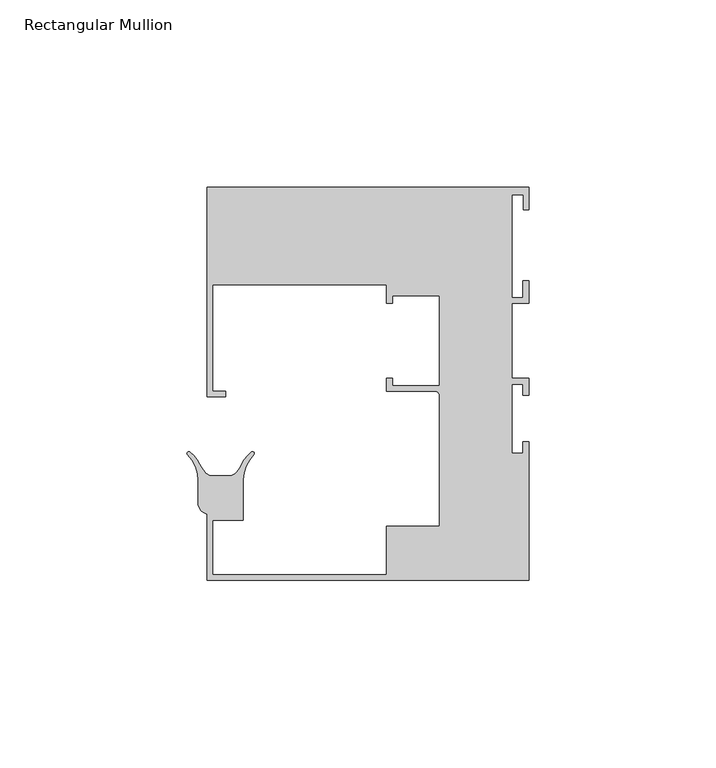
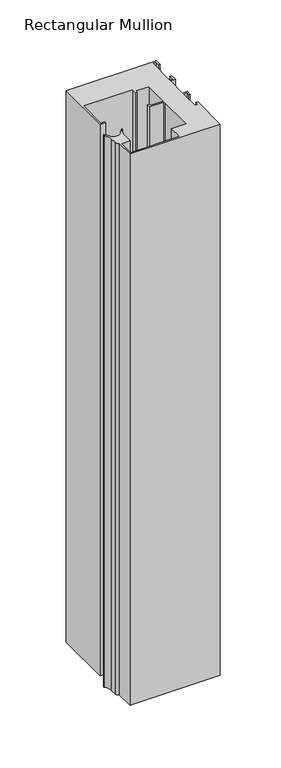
"""IFC4 building model written with IfcOpenShell, lengths in millimetres: member geometry, Rectangular Mullion : Danpal_Airpt_End-Mullion_B1."""

from ifc_helpers import new_model, si_unit, point, frame, frame_2d, origin, place, context, project, spatial, polyline, circle_curve, trimmed, segment, composite_curve, outline, extrude, source, transform, mapped, element, save


def rectangular_mullion_76561048(model_context):
    return source(origin(), model_context, "Body", "SweptSolid", [
        extrude(outline(composite_curve([segment(polyline([(-84.5, 44.249979), (-84.5, 15.7500001), (-81.0, 15.7500001), (-81.0, 14.2500001), (-86.0, 14.2500001), (-86.0, 70.2500001), (0.0, 70.2500001), (0.0, 64.2500001), (-1.5, 64.2500001), (-1.5, 68.2500001), (-4.5, 68.2500001), (-4.5, 40.7500001), (-1.5180937, 40.7500001), (-1.5180937, 45.2500001), (-0.0180937, 45.2500001), (-0.0180937, 39.2500001), (-4.5, 39.2500001), (-4.5, 19.25), (-0.0180922, 19.25), (-0.0180922, 14.65), (-1.5180922, 14.65), (-1.5180922, 17.65), (-4.5180922, 17.65), (-4.5180922, -0.75), (-1.5180922, -0.75), (-1.5180922, 2.25), (-0.0180922, 2.25), (-0.0180922, -34.75), (-86.0180914, -34.75), (-86.0180914, -17.0365625)]), True, "CONTINUOUS"), segment(trimmed(circle_curve(frame_2d((-85.366716, -14.1081309)), 3.0000002), [point((-86.0180914, -17.0365625))], [point((-88.3666989, -14.1183419))], False, "CARTESIAN"), True, "CONTINUOUS"), segment(polyline([(-88.3666989, -14.1183419), (-88.3666989, -8.1181379)]), True, "CONTINUOUS"), segment(trimmed(circle_curve(frame_2d((-98.3666403, -8.1523787)), 10.0), [point((-88.3666989, -8.1181379))], [point((-91.1789286, -1.1999114))], True, "CARTESIAN"), True, "CONTINUOUS"), segment(trimmed(circle_curve(frame_2d((-90.8194227, -0.8521716)), 0.5001675), [point((-91.1789286, -1.1999114))], [point((-90.4970116, -0.4697862))], False, "CARTESIAN"), True, "CONTINUOUS"), segment(trimmed(circle_curve(frame_2d((-96.9430732, -8.114934)), 9.9999998), [point((-90.4970116, -0.4697862))], [point((-87.9289412, -3.785336))], False, "CARTESIAN"), True, "CONTINUOUS"), segment(trimmed(circle_curve(frame_2d((-78.9148092, 0.544262)), 9.9999997), [point((-87.9289412, -3.785336))], [point((-86.6990305, -5.7331494))], True, "CARTESIAN"), True, "CONTINUOUS"), segment(trimmed(circle_curve(frame_2d((-84.363764, -3.8499259)), 3.0), [point((-86.6990305, -5.7331494))], [point((-84.363764, -6.8499259))], True, "CARTESIAN"), True, "CONTINUOUS"), segment(polyline([(-84.363764, -6.8499259), (-80.32512, -6.8499259)]), True, "CONTINUOUS"), segment(trimmed(circle_curve(frame_2d((-80.32512, -3.8499259)), 3.0), [point((-80.32512, -6.8499259))], [point((-77.9898528, -5.7331484))], True, "CARTESIAN"), True, "CONTINUOUS"), segment(trimmed(circle_curve(frame_2d((-85.7740768, 0.5442599)), 10.0), [point((-77.9898528, -5.7331484))], [point((-76.759944, -3.7853369))], True, "CARTESIAN"), True, "CONTINUOUS"), segment(trimmed(circle_curve(frame_2d((-67.7458114, -8.1149337)), 9.9999997), [point((-76.759944, -3.7853369))], [point((-74.1944462, -0.4719563))], False, "CARTESIAN"), True, "CONTINUOUS"), segment(trimmed(circle_curve(frame_2d((-73.8718016, -0.8543575)), 0.5003301), [point((-74.1944462, -0.4719563))], [point((-73.5120728, -1.2021009))], False, "CARTESIAN"), True, "CONTINUOUS"), segment(trimmed(circle_curve(frame_2d((-66.322244, -8.1523787)), 10.0), [point((-73.5120728, -1.2021009))], [point((-76.3180945, -7.8643287))], True, "CARTESIAN"), True, "CONTINUOUS"), segment(polyline([(-76.3180945, -7.8643287), (-76.3180945, -18.6499969), (-84.5180945, -18.6499969), (-84.5180945, -33.2499969), (-38.0180899, -33.2499969), (-38.0180899, -20.2499969), (-23.9180899, -20.2499969), (-23.9180899, 14.698377)]), True, "CONTINUOUS"), segment(trimmed(circle_curve(frame_2d((-24.969716, 14.698377)), 1.0516261), [point((-23.9180899, 14.698377))], [point((-24.969716, 15.7500031))], True, "CARTESIAN"), True, "CONTINUOUS"), segment(polyline([(-24.969716, 15.7500031), (-38.0180899, 15.7500031), (-38.0180899, 19.2500031), (-36.4180899, 19.2500031), (-36.4180899, 17.2500031), (-23.9180899, 17.2500031), (-23.9180899, 41.2500001), (-36.4, 41.2500001), (-36.4, 39.2500001), (-38.0, 39.2500001), (-38.0, 44.249979), (-84.5, 44.249979)]), True, "CONTINUOUS")], self_intersect=False)), frame((0.0, 0.0, -554.4), z_axis=(0.0, 0.0, 1.0), x_axis=(1.0, 0.0, 0.0)), (0.0, 0.0, 1.0), 554.4),
    ])


if __name__ == "__main__":
    model = new_model("IFC4")
    model_context = context("Model", 3, world=origin())
    ifc_project = project(units=[si_unit("LENGTHUNIT", "METRE", prefix="MILLI")], contexts=[model_context])
    site = spatial("IfcSite", under=ifc_project)
    building = spatial("IfcBuilding", under=site)
    placement = place(None, origin())
    rectangular_mullion_shape = rectangular_mullion_76561048(model_context)
    element("IfcMember", 1, ObjectType="Rectangular Mullion : Danpal_Airpt_End-Mullion_B1", at=placement, inside=building, context=model_context, shape_type="MappedRepresentation", body=[
        mapped(rectangular_mullion_shape, transform((0.0, 0.0, 0.0), x_axis=(1.0, 0.0, 0.0), y_axis=(0.0, 1.0, 0.0), z_axis=(0.0, 0.0, 1.0))),
    ])
    save(model, "model.ifc")
